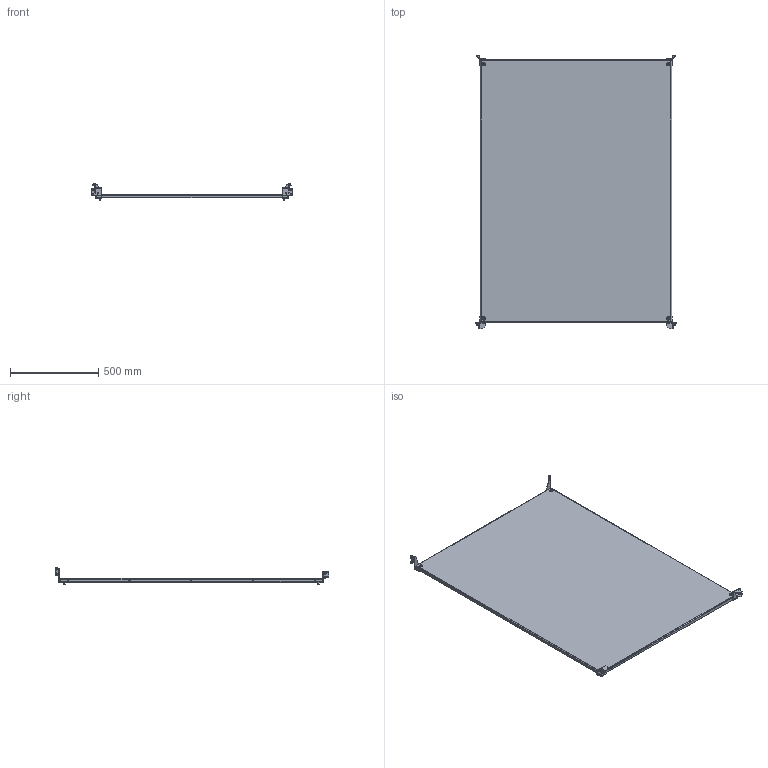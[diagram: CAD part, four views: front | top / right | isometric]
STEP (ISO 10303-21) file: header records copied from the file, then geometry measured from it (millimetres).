
FILE_DESCRIPTION(('STEP AP203'), '1');
FILE_NAME('3522.160.120 Ïàíåëü ìîíòàæíàÿ', '', ('UNSPECIFIED'), ('UNSPECIFIED'), 'C3D Converter', 'C3D Toolkit', '');
FILE_SCHEMA(('CONFIG_CONTROL_DESIGN'));
Length unit declared in the file: millimetre
Products named in the file (1): 3522.160.120
Bounding box: 1138.8 x 1550.5 x 101.8 mm (x, y, z)
Volume: 5393378.6 mm3; surface area: 3622173.3 mm2
Topology: 12 solids, 12 shells, 812 faces, 2149 edges, 1399 vertices
Faces by surface type: plane 474, cylinder 200, bspline 80, cone 30, torus 18, sphere 10
Full cylindrical faces by diameter (mm): 3 x4, 4.8 x10, 4.917 x4, 6 x14, 6.4 x4, 7 x10, 7.6 x4, 9.5 x10, 10 x4, 18 x4, 20 x4
Entity records: 38180 total; most frequent: CARTESIAN_POINT 12017, ORIENTED_EDGE 4024, DIRECTION 3882, EDGE_CURVE 2012, VERTEX_POINT 1392, AXIS2_PLACEMENT_3D 1375, LINE 1132, VECTOR 1132
